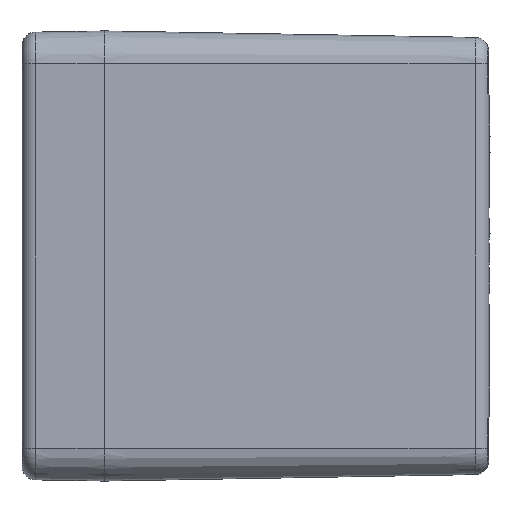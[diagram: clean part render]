
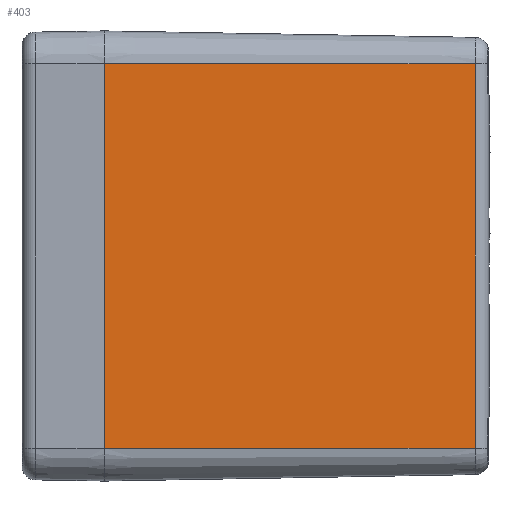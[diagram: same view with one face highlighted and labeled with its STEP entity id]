
A CAD part, left-side view. The second image highlights one B-rep face of the part: STEP entity #403.
In plain terms, the highlighted planar face has unit normal (-1, -0.018, 0).
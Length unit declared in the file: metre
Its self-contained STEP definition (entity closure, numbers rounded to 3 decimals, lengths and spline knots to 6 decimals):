
#403 = ADVANCED_FACE ( 'NONE', ( #7609 ), #21678, .T. ) ;
#1071 = VERTEX_POINT ( 'NONE', #14546 ) ;
#1668 = LINE ( 'NONE', #21932, #7633 ) ;
#2275 = DIRECTION ( 'NONE',  ( -0.017, 1., 0. ) ) ;
#2717 = VECTOR ( 'NONE', #22203, 1. ) ;
#2740 = LINE ( 'NONE', #4579, #2717 ) ;
#3876 = ORIENTED_EDGE ( 'NONE', *, *, #9452, .F. ) ;
#4573 = EDGE_CURVE ( 'NONE', #22439, #1071, #2740, .T. ) ;
#4579 = CARTESIAN_POINT ( 'NONE',  ( -0.04, 0., 0.035 ) ) ;
#5626 = VERTEX_POINT ( 'NONE', #9393 ) ;
#6004 = ORIENTED_EDGE ( 'NONE', *, *, #9411, .T. ) ;
#6321 = CARTESIAN_POINT ( 'NONE',  ( -0.04, 0., -0.035 ) ) ;
#7609 = FACE_OUTER_BOUND ( 'NONE', #14304, .T. ) ;
#7633 = VECTOR ( 'NONE', #10459, 1. ) ;
#8219 = CARTESIAN_POINT ( 'NONE',  ( -0.04, 0., 0.035 ) ) ;
#9393 = CARTESIAN_POINT ( 'NONE',  ( -0.038821, -0.067544, 0.035 ) ) ;
#9411 = EDGE_CURVE ( 'NONE', #5626, #1071, #24268, .T. ) ;
#9452 = EDGE_CURVE ( 'NONE', #12670, #22439, #17251, .T. ) ;
#9488 = EDGE_CURVE ( 'NONE', #12670, #5626, #1668, .T. ) ;
#10205 = DIRECTION ( 'NONE',  ( -1., -0.017, 0. ) ) ;
#10459 = DIRECTION ( 'NONE',  ( 0., 0., 1. ) ) ;
#12670 = VERTEX_POINT ( 'NONE', #21386 ) ;
#13502 = VECTOR ( 'NONE', #16050, 1. ) ;
#14304 = EDGE_LOOP ( 'NONE', ( #3876, #20617, #6004, #14651 ) ) ;
#14495 = AXIS2_PLACEMENT_3D ( 'NONE', #23583, #10205, #23680 ) ;
#14546 = CARTESIAN_POINT ( 'NONE',  ( -0.04, 0., 0.035 ) ) ;
#14651 = ORIENTED_EDGE ( 'NONE', *, *, #4573, .F. ) ;
#16050 = DIRECTION ( 'NONE',  ( -0.017, 1., 0. ) ) ;
#17251 = LINE ( 'NONE', #6321, #13502 ) ;
#20617 = ORIENTED_EDGE ( 'NONE', *, *, #9488, .T. ) ;
#21386 = CARTESIAN_POINT ( 'NONE',  ( -0.038821, -0.067544, -0.035 ) ) ;
#21678 = PLANE ( 'NONE',  #14495 ) ;
#21932 = CARTESIAN_POINT ( 'NONE',  ( -0.038821, -0.067544, 0.035 ) ) ;
#22203 = DIRECTION ( 'NONE',  ( 0., 0., 1. ) ) ;
#22439 = VERTEX_POINT ( 'NONE', #23985 ) ;
#23029 = VECTOR ( 'NONE', #2275, 1. ) ;
#23583 = CARTESIAN_POINT ( 'NONE',  ( -0.04, 0., 0.035 ) ) ;
#23680 = DIRECTION ( 'NONE',  ( 0.017, -1., 0. ) ) ;
#23985 = CARTESIAN_POINT ( 'NONE',  ( -0.04, 0., -0.035 ) ) ;
#24268 = LINE ( 'NONE', #8219, #23029 ) ;
